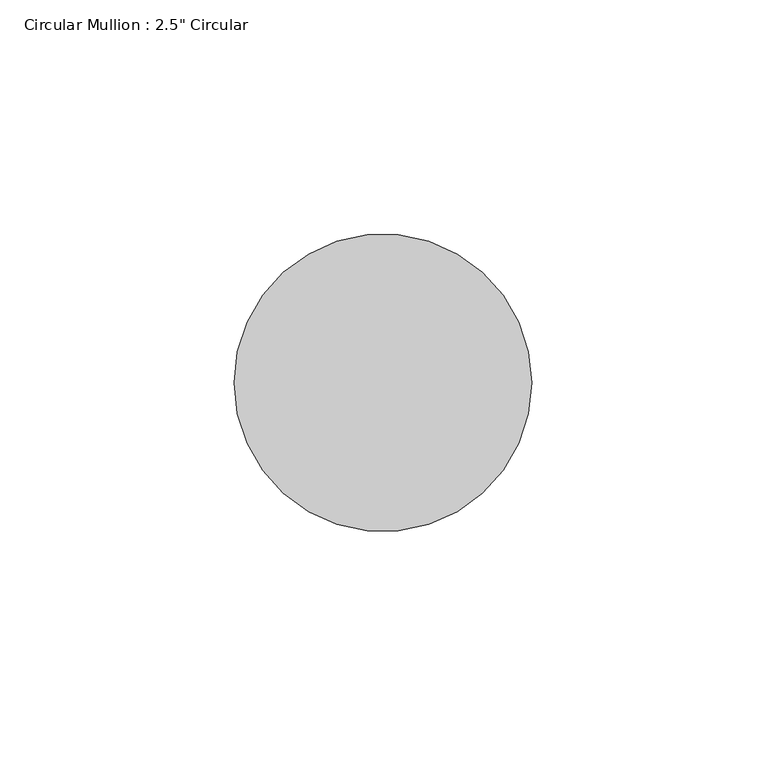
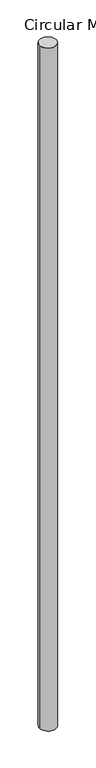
"""IFC4 building model written with IfcOpenShell, lengths in millimetres: member geometry."""

from ifc_helpers import new_model, si_unit, point, frame, frame_2d, origin, place, context, project, spatial, circle_curve, trimmed, segment, composite_curve, outline, extrude, source, transform, mapped, element, save


def member_38109110(model_context):
    return source(origin(), model_context, "Body", "SweptSolid", [
        extrude(outline(composite_curve([segment(trimmed(circle_curve(frame_2d((-31.75, 0.0)), 31.75), [point((0.0, 0.0))], [point((-63.5, 0.0))], False, "CARTESIAN"), True, "CONTINUOUS"), segment(trimmed(circle_curve(frame_2d((-31.75, 0.0)), 31.75), [point((-63.5, 0.0))], [point((0.0, 0.0))], False, "CARTESIAN"), True, "CONTINUOUS")], self_intersect=False)), frame((0.0, 0.0, -2730.644604), z_axis=(0.0, 0.0, 1.0), x_axis=(1.0, 0.0, 0.0)), (0.0, 0.0, 1.0), 2730.644604),
    ])


if __name__ == "__main__":
    model = new_model("IFC4")
    model_context = context("Model", 3, world=origin())
    ifc_project = project(units=[si_unit("LENGTHUNIT", "METRE", prefix="MILLI")], contexts=[model_context])
    site = spatial("IfcSite", under=ifc_project)
    building = spatial("IfcBuilding", under=site)
    placement = place(None, origin())
    member_shape = member_38109110(model_context)
    element("IfcMember", 1, ObjectType="Circular Mullion : 2.5\" Circular", at=placement, inside=building, context=model_context, shape_type="MappedRepresentation", body=[
        mapped(member_shape, transform((0.0, 0.0, 0.0), x_axis=(1.0, 0.0, 0.0), y_axis=(0.0, 1.0, 0.0), z_axis=(0.0, 0.0, 1.0))),
    ])
    save(model, "model.ifc")
